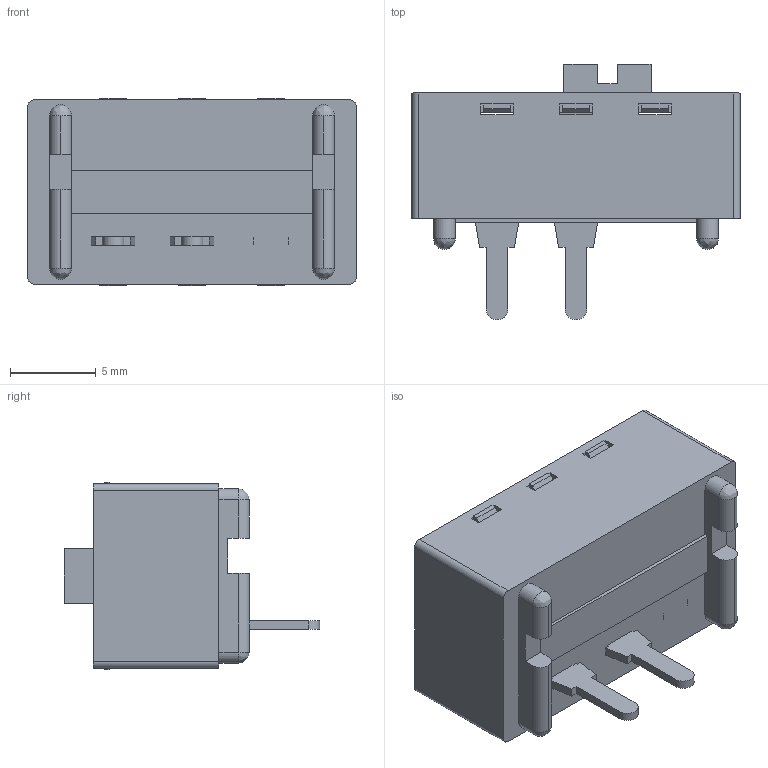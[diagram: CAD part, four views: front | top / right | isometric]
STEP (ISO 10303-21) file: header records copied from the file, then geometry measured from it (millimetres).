
FILE_DESCRIPTION(/* description */ ('STEP AP214'),/* implementation_level */ '2;1');
FILE_NAME(/* name */ 'L101121MS02Q',/* time_stamp */ '2024-11-04T07:39:49+01:00',/* author */ ('License CC BY-ND 4.0'),/* organization */ ('CADENAS'),/* preprocessor_version */ 'ST-DEVELOPER v19.3',/* originating_system */ 'PARTsolutions',/* authorisation */ ' ');
FILE_SCHEMA (('AUTOMOTIVE_DESIGN {1 0 10303 214 3 1 1}'));
Length unit declared in the file: millimetre
Products named in the file (2): L101121MS02Q; L101121MS02Q_PART1
Assembly tree (1 placements, depth 2):
  L101121MS02Q
    L101121MS02Q_PART1
Bounding box: 19.13 x 14.86 x 10.9 mm (x, y, z)
Volume: 709.1 mm3; surface area: 1853.8 mm2
Topology: 2 solids, 2 shells, 285 faces, 844 edges, 548 vertices
Faces by surface type: plane 248, cylinder 33, bspline 4
Entity records: 9538 total; most frequent: CARTESIAN_POINT 1787, ORIENTED_EDGE 1688, DIRECTION 1480, EDGE_CURVE 844, LINE 774, VECTOR 774, VERTEX_POINT 548, AXIS2_PLACEMENT_3D 353
